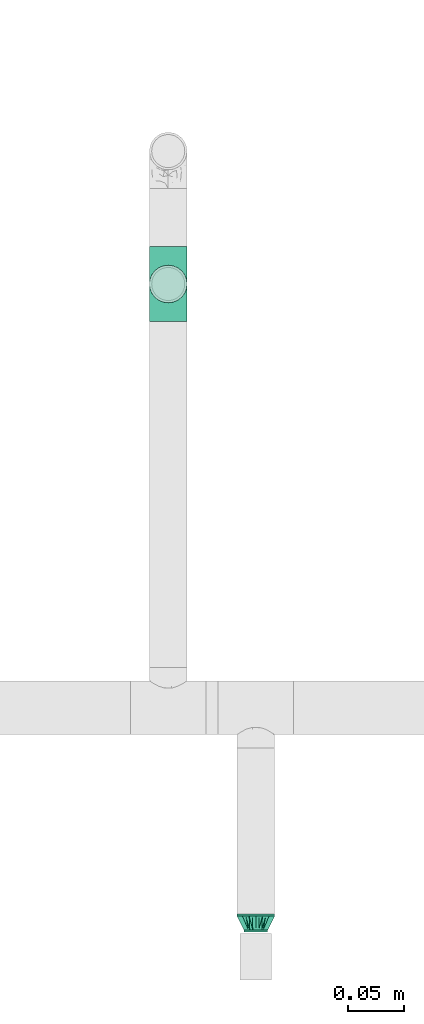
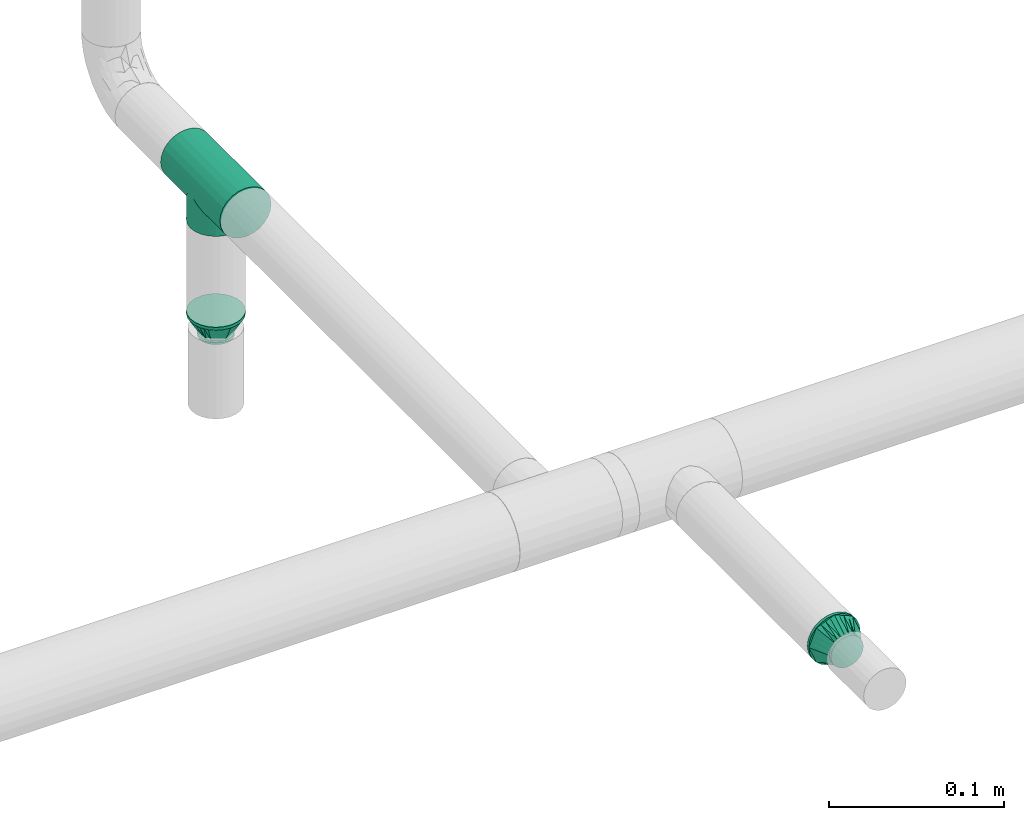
# One storey, part 33 of 51: 3 flow fittings.
"""IFC2X3 building model written with IfcOpenShell, lengths in millimetres."""

from ifc_helpers import new_model, entity, si_unit, converted_unit, derived_unit, direction, frame, origin_with_axes, place, context, subcontext, project, spatial, open_shell, surface_model, source, transform, mapped, type_object, element, save


model = new_model("IFC2X3")

# Units and contexts
model_context = context("Model", 3, precision=0.01, world=frame((0.0, 4.29681676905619e-09, 0.0)), true_north=direction((4.01073788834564e-13, 1.0)))
plan_context = context("Plan", 3, precision=0.01, world=frame((0.0, 4.29681676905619e-09, 0.0)), true_north=direction((4.01073788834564e-13, 1.0)))
body_context = subcontext(model_context, "Body", "Model", "MODEL_VIEW")
ifc_project = project(units=[converted_unit("PLANEANGLEUNIT", "DEGREE", entity("IfcPositiveLengthMeasure", 0.0174532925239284), si_unit("PLANEANGLEUNIT", "RADIAN"), dimensions=[0, 0, 0, 0, 0, 0, 0]), si_unit("AREAUNIT", "SQUARE_METRE"), si_unit("LENGTHUNIT", "METRE", prefix="MILLI"), si_unit("MASSUNIT", "GRAM", prefix="KILO"), si_unit("POWERUNIT", "WATT"), si_unit("PRESSUREUNIT", "PASCAL"), si_unit("FORCEUNIT", "NEWTON", prefix="KILO"), si_unit("ELECTRICVOLTAGEUNIT", "VOLT"), si_unit("ELECTRICCURRENTUNIT", "AMPERE"), si_unit("THERMODYNAMICTEMPERATUREUNIT", "DEGREE_CELSIUS"), si_unit("TIMEUNIT", "SECOND"), si_unit("VOLUMEUNIT", "CUBIC_METRE"), derived_unit("LINEARVELOCITYUNIT", [(si_unit("LENGTHUNIT", "METRE"), 1), (si_unit("TIMEUNIT", "SECOND"), -1)]), derived_unit("VOLUMETRICFLOWRATEUNIT", [(si_unit("VOLUMEUNIT", "CUBIC_METRE"), 1), (si_unit("TIMEUNIT", "SECOND"), -1)]), derived_unit("THERMALTRANSMITTANCEUNIT", [(si_unit("POWERUNIT", "WATT"), 1), (si_unit("THERMODYNAMICTEMPERATUREUNIT", "KELVIN"), -1), (si_unit("AREAUNIT", "SQUARE_METRE"), -1)]), derived_unit("SOUNDPRESSUREUNIT", [(si_unit("PRESSUREUNIT", "PASCAL"), 1)])], contexts=[model_context, plan_context])

# Site, building, storey
site_placement = place(None, frame((0.0, -4.29681676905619e-09, 0.0), z_axis=(0.0, 0.0, 1.0), x_axis=(1.0, 0.0, 0.0)))
site = spatial("IfcSite", under=ifc_project, at=site_placement, Name="ENGM", CompositionType="ELEMENT")
building_placement = place(site_placement, frame((0.0, 4.29681676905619e-09, 0.0), z_axis=(0.0, 0.0, 1.0), x_axis=(1.0, 0.0, 0.0)))
building = spatial("IfcBuilding", under=site, at=building_placement, Name="TH", CompositionType="ELEMENT")
storey_placement = place(building_placement, frame((0.0, 0.0, 210200.0), z_axis=(0.0, 0.0, 1.0), x_axis=(1.0, 0.0, 0.0)))
storey = spatial("IfcBuildingStorey", under=building, at=storey_placement, Name="Nivå F - 0,7 m", CompositionType="ELEMENT", Elevation=210200.0)

# Flow fittings
pipe_fitting_type_1 = type_object("IfcPipeFittingType", Name="magi_pipe_fe_reducer_centric_short_NOR", PredefinedType="TRANSITION")
shared_shape_1 = source(origin_with_axes(), body_context, "Body", "SurfaceModel", [
    surface_model("IfcShellBasedSurfaceModel", [(14.4, 5.35, -9.26647), (14.4, 0.0, -10.7), (14.4, 2.76936, -10.33541), (14.4, 10.33541, -2.76936), (14.4, 7.56604, -7.56604), (14.4, 9.26647, -5.35), (14.4, -5.35, -9.26647), (14.4, -2.76936, -10.33541), (14.4, -7.56604, -7.56604), (14.4, -10.33541, -2.76936), (14.4, -9.26647, -5.35), (14.4, 10.33541, 2.76936), (14.4, 9.26647, 5.35), (14.4, 7.56604, 7.56604), (14.4, 2.76936, 10.33541), (14.4, 5.35, 9.26647), (14.4, -7.56604, 7.56604), (14.4, -2.76936, 10.33541), (14.4, -5.35, 9.26647), (12.4, 7.56604, 7.56604), (12.4, 9.26647, 5.35), (12.4, 10.33541, 2.76936), (12.4, -2.76936, 10.33541), (12.4, -7.56604, 7.56604), (12.4, -5.35, 9.26647), (12.4, -10.33541, 2.76936), (12.4, -9.26647, 5.35), (12.4, 0.0, 10.7), (12.4, -10.33541, -2.76936), (12.4, -10.7, 0.0), (12.4, -5.35, -9.26647), (12.4, 0.0, -10.7), (12.4, -2.76936, -10.33541), (12.4, 2.76936, -10.33541), (12.4, 10.33541, -2.76936), (12.4, 10.7, 0.0), (12.4, -9.26647, -5.35), (12.4, -7.56604, -7.56604), (14.4, -10.7, 0.0), (12.4, 5.35, -9.26647), (12.4, 7.56604, -7.56604), (12.4, 9.26647, -5.35), (14.4, 10.7, 0.0), (12.4, 5.35, 9.26647), (12.4, 2.76936, 10.33541), (14.4, 0.0, 10.7), (14.4, -9.26647, 5.35), (14.4, -10.33541, 2.76936), (-2.0, 11.9501, 11.9501), (-2.0, 0.0, 16.9), (-2.0, 4.37404, 16.32415), (-2.0, 8.45, 14.63583), (-2.0, 14.63583, 8.45), (-2.0, 16.32415, 4.37404), (-2.0, -16.32415, 4.37404), (-2.0, -8.45, 14.63583), (-2.0, -14.63583, 8.45), (-2.0, -11.9501, 11.9501), (-2.0, -4.37404, 16.32415), (-2.0, -16.32415, -4.37404), (-2.0, -16.9, 0.0), (-2.0, -8.45, -14.63583), (-2.0, 16.32415, -4.37404), (-2.0, 11.9501, -11.9501), (-2.0, 14.63583, -8.45), (-2.0, 8.45, -14.63583), (-2.0, 4.37404, -16.32415), (-2.0, 0.0, -16.9), (-2.0, -11.9501, -11.9501), (-2.0, -14.63583, -8.45), (-2.0, -4.37404, -16.32415), (-2.0, 16.9, 0.0), (0.0, 4.37404, -16.32415), (0.0, 8.45, -14.63583), (0.0, 11.9501, -11.9501), (0.0, 0.0, -16.9), (0.0, 16.32415, -4.37404), (0.0, 16.32415, 4.37404), (0.0, 14.63583, -8.45), (0.0, -8.45, -14.63583), (0.0, -4.37404, -16.32415), (0.0, -11.9501, -11.9501), (0.0, -16.32415, -4.37404), (0.0, -14.63583, -8.45), (0.0, -16.32415, 4.37404), (0.0, 16.9, 0.0), (0.0, 14.63583, 8.45), (0.0, 11.9501, 11.9501), (0.0, 4.37404, 16.32415), (0.0, 8.45, 14.63583), (0.0, 0.0, 16.9), (0.0, -14.63583, 8.45), (0.0, -16.9, 0.0), (0.0, -8.45, 14.63583), (0.0, -11.9501, 11.9501), (0.0, -4.37404, 16.32415), (12.4, 9.3625, -2.31662), (0.0, 14.42505, -5.97505), (0.0, 15.66253, -2.98753), (12.4, -6.6875, -6.94985), (0.0, -13.18758, -8.96258), (0.0, 2.98753, -15.66253), (12.4, 0.0, -9.26647), (12.4, 6.6875, -6.94985), (0.0, 8.96258, -13.18758), (12.4, -9.3625, -2.31662), (0.0, -15.66253, -2.98753), (0.0, -14.42505, -5.97505), (0.0, 5.97505, -14.42505), (0.0, -2.98753, -15.66253), (0.0, -8.96258, -13.18758), (0.0, 13.18758, -8.96258), (12.4, 8.025, -4.63324), (12.4, -2.675, -9.26647), (12.4, 2.675, -9.26647), (0.0, -5.97505, -14.42505), (12.4, -8.025, -4.63324), (12.4, -9.3625, 2.31662), (0.0, -14.42505, 5.97505), (0.0, -15.66253, 2.98753), (12.4, 6.6875, 6.94985), (0.0, 13.18758, 8.96258), (0.0, -2.98753, 15.66253), (12.4, 0.0, 9.26647), (12.4, -6.6875, 6.94985), (0.0, -8.96258, 13.18758), (12.4, 9.3625, 2.31662), (0.0, 15.66253, 2.98753), (0.0, 14.42505, 5.97505), (0.0, -5.97505, 14.42505), (0.0, 2.98753, 15.66253), (0.0, 8.96258, 13.18758), (0.0, -13.18758, 8.96258), (12.4, -8.025, 4.63324), (12.4, 2.675, 9.26647), (12.4, -2.675, 9.26647), (0.0, 5.97505, 14.42505), (12.4, 8.025, 4.63324)], [open_shell([[[0, 1, 2]], [[3, 0, 4]], [[3, 4, 5]], [[1, 6, 7]], [[1, 0, 6]], [[8, 9, 10]], [[9, 8, 6]], [[11, 12, 13]], [[14, 13, 15]], [[16, 17, 18]], [[19, 20, 21]], [[22, 23, 24]], [[23, 22, 25]], [[23, 25, 26]], [[22, 27, 25]], [[25, 28, 29]], [[30, 31, 32]], [[30, 28, 33]], [[33, 31, 30]], [[34, 21, 35]], [[28, 9, 29]], [[36, 10, 28]], [[6, 37, 30]], [[36, 37, 8]], [[7, 30, 32]], [[28, 10, 9]], [[9, 38, 29]], [[7, 6, 30]], [[8, 37, 6]], [[8, 10, 36]], [[1, 7, 32]], [[32, 31, 1]], [[33, 2, 31]], [[39, 0, 33]], [[5, 40, 41]], [[39, 40, 4]], [[3, 41, 34]], [[39, 4, 0]], [[0, 2, 33]], [[42, 3, 34]], [[5, 41, 3]], [[5, 4, 40]], [[35, 42, 34]], [[31, 2, 1]], [[21, 11, 35]], [[20, 12, 21]], [[15, 19, 43]], [[20, 19, 13]], [[14, 43, 44]], [[21, 12, 11]], [[11, 42, 35]], [[14, 15, 43]], [[13, 19, 15]], [[13, 12, 20]], [[45, 14, 44]], [[44, 27, 45]], [[22, 17, 27]], [[24, 18, 22]], [[46, 23, 26]], [[24, 23, 16]], [[47, 26, 25]], [[24, 16, 18]], [[18, 17, 22]], [[38, 47, 25]], [[46, 26, 47]], [[46, 16, 23]], [[29, 38, 25]], [[27, 17, 45]], [[48, 49, 50]], [[48, 50, 51]], [[48, 52, 53]], [[48, 53, 49]], [[49, 53, 54]], [[55, 56, 57]], [[55, 58, 49]], [[56, 55, 49]], [[49, 54, 56]], [[54, 59, 60]], [[54, 53, 61]], [[53, 62, 63]], [[63, 62, 64]], [[63, 65, 66]], [[61, 53, 63]], [[67, 63, 66]], [[59, 68, 69]], [[68, 59, 61]], [[61, 67, 70]], [[59, 54, 61]], [[63, 67, 61]], [[53, 71, 62]], [[72, 73, 74]], [[75, 72, 74]], [[74, 76, 77]], [[76, 74, 78]], [[74, 77, 79]], [[75, 79, 80]], [[75, 74, 79]], [[81, 82, 83]], [[82, 81, 79]], [[79, 84, 82]], [[77, 76, 85]], [[77, 86, 87]], [[77, 87, 88]], [[88, 84, 79]], [[88, 87, 89]], [[84, 88, 90]], [[90, 91, 84]], [[92, 82, 84]], [[91, 93, 94]], [[91, 90, 93]], [[93, 90, 95]], [[79, 77, 88]], [[59, 82, 60]], [[69, 83, 59]], [[79, 68, 61]], [[69, 68, 81]], [[80, 61, 70]], [[59, 83, 82]], [[82, 92, 60]], [[80, 79, 61]], [[81, 68, 79]], [[81, 83, 69]], [[75, 80, 70]], [[70, 67, 75]], [[66, 72, 67]], [[65, 73, 66]], [[78, 63, 64]], [[65, 63, 74]], [[76, 64, 62]], [[65, 74, 73]], [[73, 72, 66]], [[85, 76, 62]], [[78, 64, 76]], [[78, 74, 63]], [[71, 85, 62]], [[67, 72, 75]], [[53, 77, 71]], [[52, 86, 53]], [[89, 48, 51]], [[52, 48, 87]], [[88, 51, 50]], [[53, 86, 77]], [[77, 85, 71]], [[88, 89, 51]], [[87, 48, 89]], [[87, 86, 52]], [[90, 88, 50]], [[50, 49, 90]], [[58, 95, 49]], [[55, 93, 58]], [[91, 57, 56]], [[55, 57, 94]], [[84, 56, 54]], [[55, 94, 93]], [[93, 95, 58]], [[92, 84, 54]], [[91, 56, 84]], [[91, 94, 57]], [[60, 92, 54]], [[49, 95, 90]], [[43, 24, 35]], [[35, 24, 30]], [[30, 39, 35]], [[30, 24, 29]], [[87, 74, 92]], [[75, 92, 74]], [[81, 92, 75]], [[74, 87, 85]], [[96, 97, 98]], [[81, 99, 100]], [[101, 102, 75]], [[98, 85, 35]], [[74, 103, 104]], [[104, 103, 39]], [[105, 106, 107]], [[39, 108, 104]], [[102, 109, 75]], [[110, 99, 81]], [[35, 96, 98]], [[103, 111, 112]], [[109, 102, 113]], [[29, 92, 106]], [[102, 101, 114]], [[110, 115, 30]], [[96, 112, 97]], [[107, 116, 105]], [[29, 106, 105]], [[113, 115, 109]], [[30, 115, 113]], [[116, 107, 100]], [[108, 39, 114]], [[111, 103, 74]], [[111, 97, 112]], [[99, 110, 30]], [[116, 100, 99]], [[101, 108, 114]], [[117, 118, 119]], [[87, 120, 121]], [[122, 123, 90]], [[119, 92, 29]], [[94, 124, 125]], [[125, 124, 24]], [[126, 127, 128]], [[24, 129, 125]], [[123, 130, 90]], [[131, 120, 87]], [[29, 117, 119]], [[124, 132, 133]], [[130, 123, 134]], [[35, 85, 127]], [[123, 122, 135]], [[131, 136, 43]], [[117, 133, 118]], [[128, 137, 126]], [[35, 127, 126]], [[134, 136, 130]], [[43, 136, 134]], [[137, 128, 121]], [[129, 24, 135]], [[132, 124, 94]], [[132, 118, 133]], [[120, 131, 43]], [[137, 121, 120]], [[122, 129, 135]], [[6, 0, 3]], [[46, 6, 3]], [[6, 46, 9]], [[11, 3, 42]], [[3, 13, 46]], [[14, 45, 13]], [[46, 13, 45]], [[9, 47, 38]], [[46, 47, 9]], [[17, 16, 46]], [[45, 17, 46]], [[3, 11, 13]], [[27, 44, 43]], [[27, 43, 19]], [[27, 19, 25]], [[34, 25, 19]], [[34, 19, 21]], [[28, 25, 34]], [[33, 34, 41]], [[40, 39, 33]], [[40, 33, 41]], [[28, 34, 33]], [[28, 37, 36]], [[37, 28, 30]], [[90, 87, 92]], [[92, 94, 90]]])]),
])
flow_fitting_1_placement = place(storey_placement, frame((905949.82472, 480835.45237, 2700.0), z_axis=(0.0, 0.0, 1.0), x_axis=(0.0, -1.0, 0.0)))
element("IfcFlowFitting", 1, at=flow_fitting_1_placement, inside=storey, type_object=pipe_fitting_type_1, Name="magi_pipe_fe_reducer_centric_short_NOR", context=body_context, shape_type="MappedRepresentation", body=[
    mapped(shared_shape_1, transform((0.0, 0.0, 0.0), scale=1.0)),
])
shared_shape_2 = source(origin_with_axes(), body_context, "Body", "SurfaceModel", [
    surface_model("IfcShellBasedSurfaceModel", [(-2.0, -7.56604, -7.56604), (-2.0, -10.33541, -2.76936), (-2.0, -5.35, -9.26647), (12.4, 11.9501, 11.9501), (12.4, 0.0, 16.9), (12.4, 11.9501, -11.9501), (12.4, 16.9, 0.0), (0.0, -10.7, 0.0), (0.0, -5.35, 9.26647), (0.0, -5.35, -9.26647), (12.4, -15.66253, -2.98753), (12.4, -16.9, 0.0), (12.4, -11.9501, -11.9501), (0.0, -6.6875, -6.94985), (12.4, -8.96258, -13.18758), (0.0, 10.7, 0.0), (12.4, 15.66253, -2.98753), (12.4, -5.97505, -14.42505), (12.4, 8.96258, -13.18758), (0.0, 6.6875, -6.94985), (12.4, 5.97505, -14.42505), (0.0, 5.35, -9.26647), (0.0, -9.3625, -2.31662), (0.0, -8.025, -4.63324), (12.4, -14.42505, -5.97505), (12.4, 14.42505, -5.97505), (0.0, 8.025, -4.63324), (0.0, 9.3625, -2.31662), (12.4, 13.18758, -8.96258), (12.4, -13.18758, -8.96258), (12.4, 15.66253, 2.98753), (0.0, 6.6875, 6.94985), (12.4, 8.96258, 13.18758), (12.4, -15.66253, 2.98753), (0.0, 5.35, 9.26647), (12.4, 5.97505, 14.42505), (12.4, -8.96258, 13.18758), (0.0, -6.6875, 6.94985), (12.4, -11.9501, 11.9501), (12.4, -5.97505, 14.42505), (0.0, 9.3625, 2.31662), (0.0, 8.025, 4.63324), (12.4, 14.42505, 5.97505), (12.4, -14.42505, 5.97505), (0.0, -8.025, 4.63324), (0.0, -9.3625, 2.31662), (12.4, -13.18758, 8.96258), (12.4, 13.18758, 8.96258), (14.4, -11.9501, -11.9501), (14.4, -8.45, -14.63583), (14.4, -4.37404, -16.32415), (14.4, 8.45, -14.63583), (14.4, 16.9, 0.0), (14.4, -14.63583, -8.45), (14.4, -16.32415, -4.37404), (14.4, -4.37404, 16.32415), (14.4, 4.37404, -16.32415), (14.4, 0.0, -16.9), (14.4, 14.63583, -8.45), (14.4, 16.32415, -4.37404), (14.4, 11.9501, -11.9501), (14.4, -16.32415, 4.37404), (14.4, -16.9, 0.0), (14.4, -11.9501, 11.9501), (14.4, -14.63583, 8.45), (14.4, -8.45, 14.63583), (14.4, 0.0, 16.9), (14.4, 16.32415, 4.37404), (14.4, 14.63583, 8.45), (14.4, 11.9501, 11.9501), (14.4, 8.45, 14.63583), (14.4, 4.37404, 16.32415), (12.4, 14.63583, 8.45), (12.4, -4.37404, 16.32415), (12.4, -8.45, 14.63583), (12.4, -16.32415, 4.37404), (12.4, -14.63583, 8.45), (12.4, 8.45, 14.63583), (12.4, 4.37404, 16.32415), (12.4, 16.32415, 4.37404), (12.4, 16.32415, -4.37404), (12.4, 8.45, -14.63583), (12.4, -16.32415, -4.37404), (12.4, -14.63583, -8.45), (12.4, -4.37404, -16.32415), (12.4, -8.45, -14.63583), (12.4, 14.63583, -8.45), (12.4, 4.37404, -16.32415), (12.4, 0.0, -16.9), (-2.0, -2.76936, 10.33541), (-2.0, 0.0, 10.7), (-2.0, -10.33541, 2.76936), (-2.0, -5.35, 9.26647), (-2.0, -7.56604, 7.56604), (-2.0, -9.26647, 5.35), (-2.0, 9.26647, 5.35), (-2.0, 5.35, 9.26647), (-2.0, 7.56604, 7.56604), (-2.0, 2.76936, 10.33541), (-2.0, 10.7, 0.0), (-2.0, 10.33541, -2.76936), (-2.0, 10.33541, 2.76936), (-2.0, -9.26647, -5.35), (-2.0, 5.35, -9.26647), (-2.0, -2.76936, -10.33541), (-2.0, 9.26647, -5.35), (-2.0, 7.56604, -7.56604), (-2.0, 2.76936, -10.33541), (-2.0, 0.0, -10.7), (-2.0, -10.7, 0.0), (0.0, -2.76936, -10.33541), (0.0, 0.0, -10.7), (0.0, -7.56604, -7.56604), (0.0, -10.33541, -2.76936), (0.0, 10.33541, -2.76936), (0.0, -9.26647, -5.35), (0.0, 9.26647, 5.35), (0.0, 2.76936, -10.33541), (0.0, 9.26647, -5.35), (0.0, 7.56604, -7.56604), (0.0, -10.33541, 2.76936), (0.0, -7.56604, 7.56604), (0.0, -9.26647, 5.35), (0.0, 0.0, 10.7), (0.0, -2.76936, 10.33541), (0.0, 10.33541, 2.76936), (0.0, 2.76936, 10.33541), (0.0, 7.56604, 7.56604), (12.4, -2.98753, -15.66253), (0.0, -2.675, -9.26647), (0.0, 2.675, -9.26647), (12.4, 2.98753, -15.66253), (0.0, 0.0, -9.26647), (12.4, 2.98753, 15.66253), (0.0, 2.675, 9.26647), (0.0, -2.675, 9.26647), (12.4, -2.98753, 15.66253), (0.0, 0.0, 9.26647)], [open_shell([[[0, 1, 2]], [[3, 4, 5]], [[5, 6, 3]], [[7, 8, 9]], [[10, 11, 7]], [[12, 13, 14]], [[15, 6, 16]], [[9, 17, 14]], [[18, 19, 5]], [[18, 20, 21]], [[22, 23, 24]], [[25, 26, 27]], [[26, 25, 28]], [[29, 24, 23]], [[30, 6, 15]], [[3, 31, 32]], [[7, 11, 33]], [[34, 35, 32]], [[36, 37, 38]], [[36, 39, 8]], [[40, 41, 42]], [[43, 44, 45]], [[44, 43, 46]], [[47, 42, 41]], [[48, 49, 50]], [[48, 50, 51]], [[51, 52, 48]], [[53, 48, 54]], [[48, 55, 54]], [[56, 51, 57]], [[51, 50, 57]], [[58, 59, 60]], [[51, 60, 59]], [[59, 52, 51]], [[61, 62, 54]], [[63, 64, 61]], [[55, 63, 61]], [[48, 52, 55]], [[65, 63, 55]], [[66, 55, 52]], [[67, 68, 66]], [[66, 52, 67]], [[69, 70, 68]], [[70, 66, 68]], [[71, 66, 70]], [[61, 54, 55]], [[4, 72, 73]], [[74, 73, 75]], [[75, 76, 38]], [[74, 75, 38]], [[75, 73, 72]], [[3, 72, 77]], [[4, 78, 77]], [[77, 72, 4]], [[75, 72, 79]], [[6, 80, 79]], [[81, 75, 79]], [[12, 82, 75]], [[83, 82, 12]], [[84, 85, 12]], [[12, 75, 81]], [[12, 81, 84]], [[86, 5, 80]], [[81, 80, 5]], [[87, 88, 81]], [[81, 79, 80]], [[81, 88, 84]], [[11, 75, 82]], [[6, 59, 80]], [[80, 58, 86]], [[81, 5, 51]], [[60, 5, 86]], [[87, 81, 56]], [[59, 58, 80]], [[6, 52, 59]], [[81, 51, 56]], [[51, 5, 60]], [[86, 58, 60]], [[87, 56, 57]], [[57, 88, 87]], [[88, 50, 84]], [[84, 49, 85]], [[83, 12, 53]], [[48, 12, 85]], [[82, 83, 54]], [[49, 48, 85]], [[84, 50, 49]], [[82, 54, 62]], [[54, 83, 53]], [[12, 48, 53]], [[82, 62, 11]], [[57, 50, 88]], [[11, 61, 75]], [[75, 64, 76]], [[74, 38, 65]], [[63, 38, 76]], [[73, 74, 55]], [[61, 64, 75]], [[11, 62, 61]], [[74, 65, 55]], [[65, 38, 63]], [[76, 64, 63]], [[73, 55, 66]], [[66, 4, 73]], [[4, 71, 78]], [[78, 70, 77]], [[72, 3, 68]], [[69, 3, 77]], [[79, 72, 67]], [[70, 69, 77]], [[78, 71, 70]], [[79, 67, 52]], [[67, 72, 68]], [[3, 69, 68]], [[79, 52, 6]], [[66, 71, 4]], [[89, 90, 91]], [[92, 89, 93]], [[91, 94, 93]], [[89, 91, 93]], [[95, 91, 90]], [[96, 97, 98]], [[95, 98, 97]], [[99, 100, 101]], [[90, 98, 95]], [[100, 95, 101]], [[1, 91, 95]], [[1, 95, 100]], [[102, 1, 0]], [[100, 2, 1]], [[2, 103, 104]], [[105, 106, 100]], [[103, 100, 106]], [[107, 108, 103]], [[2, 100, 103]], [[103, 108, 104]], [[109, 91, 1]], [[110, 111, 9]], [[112, 9, 113]], [[113, 9, 114]], [[115, 112, 113]], [[113, 114, 116]], [[117, 21, 111]], [[21, 9, 111]], [[118, 114, 119]], [[21, 119, 114]], [[21, 114, 9]], [[120, 7, 113]], [[121, 122, 120]], [[116, 121, 113]], [[121, 123, 124]], [[8, 121, 124]], [[123, 121, 116]], [[15, 125, 114]], [[114, 125, 116]], [[34, 126, 127]], [[116, 127, 126]], [[116, 126, 123]], [[121, 120, 113]], [[99, 114, 100]], [[100, 118, 105]], [[103, 106, 21]], [[119, 106, 105]], [[107, 103, 117]], [[114, 118, 100]], [[99, 15, 114]], [[103, 21, 117]], [[21, 106, 119]], [[105, 118, 119]], [[107, 117, 111]], [[111, 108, 107]], [[108, 110, 104]], [[104, 9, 2]], [[102, 0, 115]], [[112, 0, 2]], [[1, 102, 113]], [[9, 112, 2]], [[104, 110, 9]], [[1, 113, 7]], [[113, 102, 115]], [[0, 112, 115]], [[1, 7, 109]], [[111, 110, 108]], [[109, 120, 91]], [[91, 122, 94]], [[92, 93, 8]], [[121, 93, 94]], [[89, 92, 124]], [[120, 122, 91]], [[109, 7, 120]], [[92, 8, 124]], [[8, 93, 121]], [[94, 122, 121]], [[89, 124, 123]], [[123, 90, 89]], [[90, 126, 98]], [[98, 34, 96]], [[95, 97, 116]], [[127, 97, 96]], [[101, 95, 125]], [[34, 127, 96]], [[98, 126, 34]], [[101, 125, 15]], [[125, 95, 116]], [[97, 127, 116]], [[101, 15, 99]], [[123, 126, 90]], [[4, 38, 11]], [[11, 88, 5]], [[88, 11, 12]], [[4, 11, 5]], [[8, 34, 15]], [[21, 9, 15]], [[8, 15, 9]], [[128, 17, 129]], [[16, 25, 27]], [[130, 21, 20]], [[18, 21, 19]], [[24, 10, 22]], [[26, 28, 19]], [[20, 131, 130]], [[9, 129, 17]], [[13, 12, 29]], [[9, 14, 13]], [[129, 132, 128]], [[130, 131, 132]], [[29, 23, 13]], [[132, 131, 88]], [[16, 27, 15]], [[22, 10, 7]], [[5, 19, 28]], [[132, 88, 128]], [[133, 35, 134]], [[33, 43, 45]], [[135, 8, 39]], [[36, 8, 37]], [[42, 30, 40]], [[44, 46, 37]], [[39, 136, 135]], [[34, 134, 35]], [[31, 3, 47]], [[34, 32, 31]], [[134, 137, 133]], [[135, 136, 137]], [[47, 41, 31]], [[137, 136, 4]], [[33, 45, 7]], [[40, 30, 15]], [[38, 37, 46]], [[137, 4, 133]]])]),
])
flow_fitting_2_placement = place(storey_placement, frame((905871.02472, 481404.39138, 2596.95199999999), z_axis=(1.0, 0.0, 0.0), x_axis=(0.0, 0.0, 1.0)))
element("IfcFlowFitting", 2, at=flow_fitting_2_placement, inside=storey, type_object=pipe_fitting_type_1, Name="magi_pipe_fe_reducer_centric_short_NOR", context=body_context, shape_type="MappedRepresentation", body=[
    mapped(shared_shape_2, transform((0.0, 0.0, 0.0), scale=1.0)),
])
pipe_fitting_type_2 = type_object("IfcPipeFittingType", Name="magi_pipe_fe_tee_centric_90_NOR", PredefinedType="JUNCTION")
shared_shape_3 = source(origin_with_axes(), body_context, "Body", "SurfaceModel", [
    surface_model("IfcShellBasedSurfaceModel", [(-33.8, 4.37404, -16.32415), (-33.8, 0.0, -16.9), (-33.8, 16.32415, -4.37404), (-33.8, 8.45, -14.63583), (-33.8, 11.9501, -11.9501), (-33.8, 14.63583, -8.45), (-33.8, -16.9, 0.0), (-33.8, -11.9501, -11.9501), (-33.8, -14.63583, -8.45), (-33.8, -8.45, -14.63583), (-33.8, -4.37404, -16.32415), (-33.8, -16.32415, -4.37404), (-33.8, 14.63583, 8.45), (-33.8, 16.32415, 4.37404), (-33.8, -8.45, 14.63583), (-33.8, 8.45, 14.63583), (-33.8, 11.9501, 11.9501), (-33.8, 4.37404, 16.32415), (-33.8, 0.0, 16.9), (-33.8, -11.9501, 11.9501), (-33.8, -14.63583, 8.45), (-33.8, -16.32415, 4.37404), (-33.8, -4.37404, 16.32415), (-33.8, 16.9, 0.0), (33.8, 4.37404, -16.32415), (33.8, -16.9, 0.0), (33.8, 0.0, -16.9), (33.8, 14.63583, -8.45), (33.8, 8.45, -14.63583), (33.8, 16.32415, -4.37404), (33.8, 11.9501, -11.9501), (33.8, -16.32415, 4.37404), (33.8, -8.45, -14.63583), (33.8, -4.37404, -16.32415), (33.8, -11.9501, -11.9501), (33.8, -14.63583, -8.45), (33.8, -16.32415, -4.37404), (33.8, 16.32415, 4.37404), (33.8, 8.45, 14.63583), (33.8, 14.63583, 8.45), (33.8, 11.9501, 11.9501), (33.8, -8.45, 14.63583), (33.8, 4.37404, 16.32415), (33.8, -14.63583, 8.45), (33.8, -11.9501, 11.9501), (33.8, 0.0, 16.9), (33.8, -4.37404, 16.32415), (33.8, 16.9, 0.0), (16.28698, -16.28698, 4.51047), (16.9, -16.9, 0.0), (14.62704, -14.62704, 8.4652), (9.47213, -9.47213, 13.99602), (12.26343, -12.26343, 11.62834), (-16.9, -16.9, 0.0), (-16.28698, -16.28698, 4.51047), (-14.62704, -14.62704, 8.4652), (-12.26343, -12.26343, 11.62834), (-9.47213, -9.47213, 13.99602), (-6.42894, -6.42894, 15.62942), (6.42894, -6.42894, 15.62942), (3.24522, -3.24522, 16.58549), (0.0, 0.0, 16.9), (-3.24522, -3.24522, 16.58549), (3.24522, -3.24522, -16.58549), (0.0, 0.0, -16.9), (-3.24522, -3.24522, -16.58549), (-6.42894, -6.42894, -15.62942), (6.42894, -6.42894, -15.62942), (9.47213, -9.47213, -13.99602), (12.26343, -12.26343, -11.62834), (14.62704, -14.62704, -8.4652), (16.28698, -16.28698, -4.51047), (-9.47213, -9.47213, -13.99602), (-12.26343, -12.26343, -11.62834), (-16.28698, -16.28698, -4.51047), (-14.62704, -14.62704, -8.4652), (4.37404, -25.35, -16.32415), (-16.9, -25.35, 0.0), (0.0, -25.35, -16.9), (14.63583, -25.35, -8.45), (8.45, -25.35, -14.63583), (16.32415, -25.35, -4.37404), (11.9501, -25.35, -11.9501), (-11.9501, -25.35, -11.9501), (-8.45, -25.35, -14.63583), (-4.37404, -25.35, -16.32415), (-14.63583, -25.35, -8.45), (-16.32415, -25.35, -4.37404), (16.9, -25.35, 0.0), (8.45, -25.35, 14.63583), (16.32415, -25.35, 4.37404), (14.63583, -25.35, 8.45), (-8.45, -25.35, 14.63583), (11.9501, -25.35, 11.9501), (4.37404, -25.35, 16.32415), (-16.32415, -25.35, 4.37404), (-11.9501, -25.35, 11.9501), (-14.63583, -25.35, 8.45), (0.0, -25.35, 16.9), (-4.37404, -25.35, 16.32415)], [open_shell([[[0, 1, 2]], [[3, 0, 4]], [[0, 2, 5]], [[4, 0, 5]], [[6, 2, 1]], [[7, 8, 9]], [[1, 10, 9]], [[11, 6, 8]], [[1, 9, 8]], [[1, 8, 6]], [[6, 12, 2]], [[12, 13, 2]], [[14, 12, 6]], [[12, 14, 15]], [[16, 12, 15]], [[17, 15, 18]], [[19, 14, 20]], [[21, 20, 14]], [[22, 18, 14]], [[14, 6, 21]], [[14, 18, 15]], [[23, 2, 13]], [[24, 25, 26]], [[27, 24, 28]], [[27, 29, 24]], [[27, 28, 30]], [[31, 25, 24]], [[26, 32, 33]], [[26, 34, 32]], [[35, 25, 36]], [[35, 34, 26]], [[25, 35, 26]], [[24, 29, 31]], [[29, 37, 38]], [[38, 37, 39]], [[38, 31, 29]], [[38, 39, 40]], [[41, 38, 42]], [[43, 41, 44]], [[41, 43, 31]], [[41, 45, 46]], [[41, 31, 38]], [[42, 45, 41]], [[29, 47, 37]], [[31, 43, 48]], [[25, 31, 49]], [[49, 31, 48]], [[43, 50, 48]], [[44, 41, 51]], [[50, 43, 52]], [[51, 52, 44]], [[52, 43, 44]], [[53, 54, 21]], [[53, 21, 6]], [[21, 54, 20]], [[54, 55, 20]], [[56, 57, 19]], [[19, 20, 56]], [[19, 57, 14]], [[56, 20, 55]], [[14, 57, 58]], [[51, 41, 59]], [[60, 45, 61]], [[59, 46, 60]], [[46, 59, 41]], [[60, 46, 45]], [[61, 45, 42]], [[39, 37, 13]], [[16, 38, 40]], [[12, 40, 39]], [[42, 38, 15]], [[23, 37, 47]], [[62, 61, 18]], [[62, 22, 58]], [[22, 62, 18]], [[58, 22, 14]], [[61, 17, 18]], [[42, 17, 61]], [[15, 17, 42]], [[15, 38, 16]], [[12, 16, 40]], [[13, 12, 39]], [[37, 23, 13]], [[5, 27, 30]], [[23, 47, 29]], [[30, 28, 3]], [[27, 2, 29]], [[26, 33, 63]], [[26, 64, 24]], [[64, 26, 63]], [[28, 24, 0]], [[64, 0, 24]], [[4, 30, 3]], [[2, 27, 5]], [[5, 30, 4]], [[2, 23, 29]], [[65, 66, 10]], [[1, 0, 64]], [[1, 65, 10]], [[66, 9, 10]], [[0, 3, 28]], [[1, 64, 65]], [[63, 33, 67]], [[32, 34, 68]], [[69, 68, 34]], [[35, 70, 69]], [[69, 34, 35]], [[32, 68, 67]], [[36, 25, 49]], [[36, 71, 35]], [[71, 36, 49]], [[35, 71, 70]], [[72, 9, 66]], [[72, 7, 9]], [[7, 72, 73]], [[7, 73, 8]], [[74, 53, 11]], [[75, 74, 8]], [[74, 11, 8]], [[11, 53, 6]], [[75, 8, 73]], [[32, 67, 33]], [[76, 77, 78]], [[79, 76, 80]], [[79, 81, 76]], [[79, 80, 82]], [[77, 76, 81]], [[78, 83, 84]], [[84, 85, 78]], [[86, 77, 87]], [[83, 78, 86]], [[77, 86, 78]], [[81, 88, 77]], [[89, 88, 90]], [[89, 90, 91]], [[92, 77, 89]], [[89, 91, 93]], [[92, 89, 94]], [[95, 96, 97]], [[96, 95, 92]], [[92, 98, 99]], [[95, 77, 92]], [[94, 98, 92]], [[89, 77, 88]], [[77, 95, 53]], [[54, 53, 95]], [[97, 96, 56]], [[96, 92, 57]], [[95, 97, 54]], [[58, 92, 99]], [[55, 54, 97]], [[56, 55, 97]], [[58, 57, 92]], [[98, 61, 62]], [[58, 99, 62]], [[56, 96, 57]], [[62, 99, 98]], [[94, 60, 98]], [[89, 59, 94]], [[91, 90, 48]], [[52, 93, 91]], [[93, 51, 89]], [[49, 90, 88]], [[59, 60, 94]], [[51, 59, 89]], [[49, 48, 90]], [[50, 52, 91]], [[48, 50, 91]], [[51, 93, 52]], [[98, 60, 61]], [[88, 81, 49]], [[71, 49, 81]], [[79, 82, 69]], [[82, 80, 68]], [[81, 79, 71]], [[67, 80, 76]], [[70, 71, 79]], [[69, 70, 79]], [[67, 68, 80]], [[78, 64, 63]], [[67, 76, 63]], [[69, 82, 68]], [[63, 76, 78]], [[85, 65, 78]], [[84, 66, 85]], [[86, 87, 74]], [[86, 73, 83]], [[72, 84, 83]], [[53, 87, 77]], [[66, 65, 85]], [[72, 66, 84]], [[53, 74, 87]], [[75, 73, 86]], [[74, 75, 86]], [[72, 83, 73]], [[78, 65, 64]]])]),
])
flow_fitting_3_placement = place(storey_placement, frame((905871.02472, 481404.39138, 2700.0), z_axis=(-1.0, 0.0, 0.0), x_axis=(0.0, -1.0, 0.0)))
element("IfcFlowFitting", 3, at=flow_fitting_3_placement, inside=storey, type_object=pipe_fitting_type_2, Name="magi_pipe_fe_tee_centric_90_NOR", context=body_context, shape_type="MappedRepresentation", body=[
    mapped(shared_shape_3, transform((0.0, 0.0, 0.0), scale=1.0)),
])

save(model, "model.ifc")
